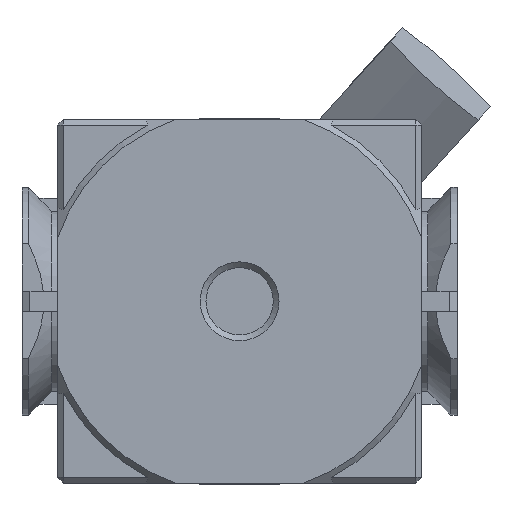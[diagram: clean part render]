
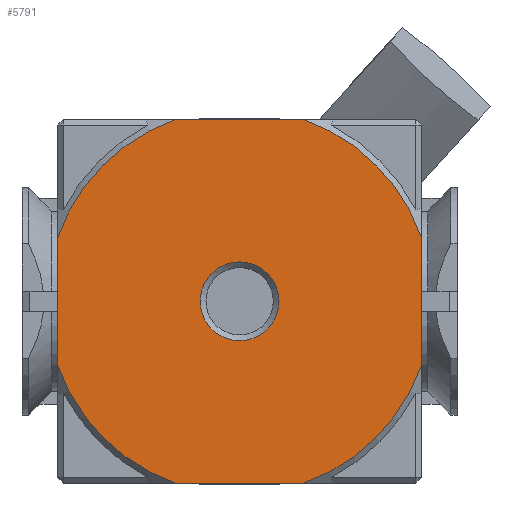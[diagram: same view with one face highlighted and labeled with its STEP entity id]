
A CAD part, front view. The second image highlights one B-rep face of the part: STEP entity #5791.
In plain terms, the highlighted planar face has unit normal (0, -1, 0).
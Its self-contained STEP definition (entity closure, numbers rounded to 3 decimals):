
#903=CARTESIAN_POINT('',(6.85,-40.7,0.0));
#904=VERTEX_POINT('',#903);
#905=CARTESIAN_POINT('',(0.,-40.7,0.0));
#906=DIRECTION('',(0.0,1.0,0.0));
#907=DIRECTION('',(1.0,0.0,0.0));
#908=AXIS2_PLACEMENT_3D('',#905,#906,#907);
#909=CIRCLE('',#908,6.85);
#910=EDGE_CURVE('',#904,#904,#909,.T.);
#3607=CARTESIAN_POINT('',(-11.122,-40.7,31.6));
#3608=VERTEX_POINT('',#3607);
#3615=CARTESIAN_POINT('',(11.122,-40.7,31.6));
#3616=VERTEX_POINT('',#3615);
#3617=CARTESIAN_POINT('',(11.122,-40.7,31.6));
#3618=DIRECTION('',(-1.0,0.0,0.0));
#3619=VECTOR('',#3618,22.243);
#3620=LINE('',#3617,#3619);
#3621=EDGE_CURVE('',#3616,#3608,#3620,.T.);
#3991=CARTESIAN_POINT('',(-31.6,-40.7,-11.122));
#3992=VERTEX_POINT('',#3991);
#3999=CARTESIAN_POINT('',(-31.6,-40.7,11.122));
#4000=VERTEX_POINT('',#3999);
#4001=CARTESIAN_POINT('',(-31.6,-40.7,11.122));
#4002=DIRECTION('',(0.0,0.0,-1.0));
#4003=VECTOR('',#4002,22.243);
#4004=LINE('',#4001,#4003);
#4005=EDGE_CURVE('',#4000,#3992,#4004,.T.);
#4373=CARTESIAN_POINT('',(31.6,-40.7,11.122));
#4374=VERTEX_POINT('',#4373);
#4381=CARTESIAN_POINT('',(31.6,-40.7,-11.122));
#4382=VERTEX_POINT('',#4381);
#4383=CARTESIAN_POINT('',(31.6,-40.7,-11.122));
#4384=DIRECTION('',(0.0,0.0,1.0));
#4385=VECTOR('',#4384,22.243);
#4386=LINE('',#4383,#4385);
#4387=EDGE_CURVE('',#4382,#4374,#4386,.T.);
#5046=CARTESIAN_POINT('',(11.122,-40.7,-31.6));
#5047=VERTEX_POINT('',#5046);
#5054=CARTESIAN_POINT('',(-11.122,-40.7,-31.6));
#5055=VERTEX_POINT('',#5054);
#5056=CARTESIAN_POINT('',(-11.122,-40.7,-31.6));
#5057=DIRECTION('',(1.0,0.0,0.0));
#5058=VECTOR('',#5057,22.243);
#5059=LINE('',#5056,#5058);
#5060=EDGE_CURVE('',#5055,#5047,#5059,.T.);
#5691=CARTESIAN_POINT('',(0.,-40.7,0.0));
#5692=DIRECTION('',(0.0,-1.0,0.0));
#5693=DIRECTION('',(1.0,0.0,0.0));
#5694=AXIS2_PLACEMENT_3D('',#5691,#5692,#5693);
#5695=CIRCLE('',#5694,33.5);
#5696=EDGE_CURVE('',#3608,#4000,#5695,.T.);
#5715=CARTESIAN_POINT('',(0.,-40.7,0.0));
#5716=DIRECTION('',(0.0,-1.0,0.0));
#5717=DIRECTION('',(1.0,0.0,0.0));
#5718=AXIS2_PLACEMENT_3D('',#5715,#5716,#5717);
#5719=CIRCLE('',#5718,33.5);
#5720=EDGE_CURVE('',#3992,#5055,#5719,.T.);
#5739=CARTESIAN_POINT('',(0.,-40.7,0.0));
#5740=DIRECTION('',(0.0,-1.0,0.0));
#5741=DIRECTION('',(1.0,0.0,0.0));
#5742=AXIS2_PLACEMENT_3D('',#5739,#5740,#5741);
#5743=CIRCLE('',#5742,33.5);
#5744=EDGE_CURVE('',#5047,#4382,#5743,.T.);
#5763=CARTESIAN_POINT('',(0.,-40.7,0.0));
#5764=DIRECTION('',(0.0,-1.0,0.0));
#5765=DIRECTION('',(1.0,0.0,0.0));
#5766=AXIS2_PLACEMENT_3D('',#5763,#5764,#5765);
#5767=CIRCLE('',#5766,33.5);
#5768=EDGE_CURVE('',#4374,#3616,#5767,.T.);
#5773=CARTESIAN_POINT('',(0.,-40.7,0.0));
#5774=DIRECTION('',(0.0,-1.0,0.0));
#5775=DIRECTION('',(0.0,0.0,-1.0));
#5776=AXIS2_PLACEMENT_3D('',#5773,#5774,#5775);
#5777=PLANE('',#5776);
#5778=ORIENTED_EDGE('',*,*,#5696,.T.);
#5779=ORIENTED_EDGE('',*,*,#4005,.T.);
#5780=ORIENTED_EDGE('',*,*,#5720,.T.);
#5781=ORIENTED_EDGE('',*,*,#5060,.T.);
#5782=ORIENTED_EDGE('',*,*,#5744,.T.);
#5783=ORIENTED_EDGE('',*,*,#4387,.T.);
#5784=ORIENTED_EDGE('',*,*,#5768,.T.);
#5785=ORIENTED_EDGE('',*,*,#3621,.T.);
#5786=EDGE_LOOP('',(#5778,#5779,#5780,#5781,#5782,#5783,#5784,#5785));
#5787=FACE_OUTER_BOUND('',#5786,.T.);
#5788=ORIENTED_EDGE('',*,*,#910,.T.);
#5789=EDGE_LOOP('',(#5788));
#5790=FACE_BOUND('',#5789,.T.);
#5791=ADVANCED_FACE('',(#5787,#5790),#5777,.T.);
